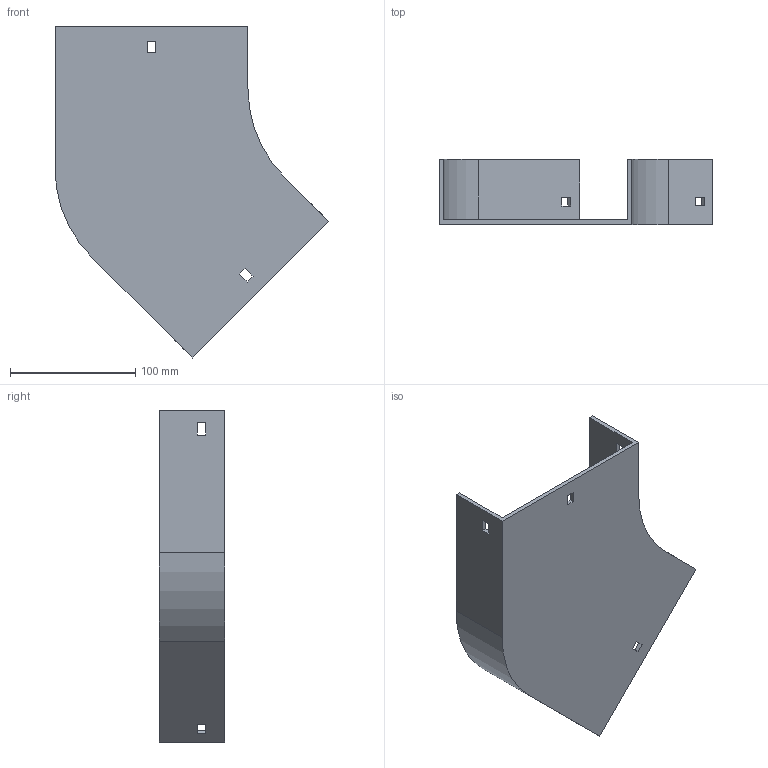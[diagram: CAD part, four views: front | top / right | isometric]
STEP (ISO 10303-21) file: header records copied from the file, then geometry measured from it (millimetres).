
FILE_DESCRIPTION (( 'STEP AP214' ), '1' );
FILE_NAME ('11B1B150.step', '2025-02-21T09:37:34', ( '' ), ( '' ), 'SwSTEP 2.0', 'SolidWorks 2023', '' );
FILE_SCHEMA (( 'AUTOMOTIVE_DESIGN' ));
Length unit declared in the file: millimetre
Products named in the file (1): 11B1B150
Bounding box: 218.64 x 52 x 264.96 mm (x, y, z)
Volume: 213815.5 mm3; surface area: 126326.6 mm2
Topology: 1 solids, 1 shells, 42 faces, 120 edges, 80 vertices
Faces by surface type: plane 38, cylinder 4
Entity records: 1399 total; most frequent: CARTESIAN_POINT 243, ORIENTED_EDGE 240, DIRECTION 214, EDGE_CURVE 120, VECTOR 112, LINE 112, VERTEX_POINT 80, EDGE_LOOP 54
